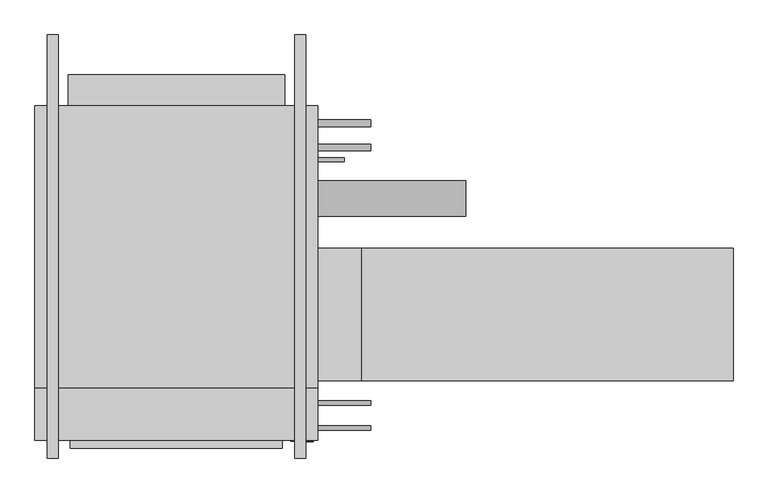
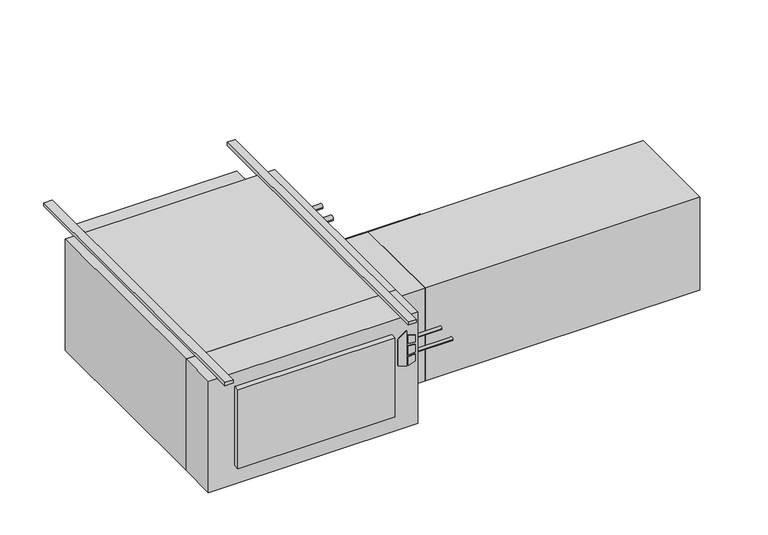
"""IFC4 building model written with IfcOpenShell, lengths in millimetres: proxy geometry."""

from ifc_helpers import new_model, si_unit, point, frame, frame_2d, origin, origin_with_axes, place, context, project, spatial, polyline, circle_curve, trimmed, segment, composite_curve, outline, extrude, source, transform, mapped, element, save


def mechanical_equipment_6838c852(model_context):
    return source(origin(), model_context, "Body", "SweptSolid", [
        extrude(outline(polyline([(-193.2519297, 481.0868862), (-203.2, 513.2602728), (-61.0290756, 513.2602728), (-84.0510817, 481.0868862), (-193.2519297, 481.0868862)])), frame((0.0, -797.052, 0.0), z_axis=(0.0, 1.0, 0.0), x_axis=(0.0, 0.0, 1.0)), (0.0, 0.0, 1.0), 3.175),
        extrude(outline(polyline([(-114.2526443, 520.0186058), (-117.4550368, 546.1), (-88.2261958, 546.1), (-80.1617807, 520.0186058), (-114.2526443, 520.0186058)])), frame((0.0, -797.052, 0.0), z_axis=(0.0, 1.0, 0.0), x_axis=(0.0, 0.0, 1.0)), (0.0, 0.0, 1.0), 3.175),
        extrude(outline(polyline([(-166.1161712, 546.1), (-169.7816721, 520.0186058), (-203.2, 520.0186058), (-194.5657628, 546.1), (-166.1161712, 546.1)])), frame((0.0, -797.052, 0.0), z_axis=(0.0, 1.0, 0.0), x_axis=(0.0, 0.0, 1.0)), (0.0, 0.0, 1.0), 3.175),
        extrude(outline(polyline([(-126.8010097, 546.1), (-124.5191834, 520.0186058), (-160.4567319, 520.0186058), (-157.7154669, 546.1), (-126.8010097, 546.1)])), frame((0.0, -797.052, 0.0), z_axis=(0.0, 1.0, 0.0), x_axis=(0.0, 0.0, 1.0)), (0.0, 0.0, 1.0), 3.175),
        extrude(outline(polyline([(558.8, -793.877), (-254.0, -793.877), (-254.0, -644.525), (558.8, -644.525), (558.8, -793.877)])), frame((0.0, 0.0, -457.2), z_axis=(0.0, 0.0, 1.0), x_axis=(1.0, 0.0, 0.0)), (0.0, 0.0, 1.0), 457.2),
        extrude(outline(polyline([(457.2, -816.229), (-152.4, -816.229), (-152.4, -793.877), (457.2, -793.877), (457.2, -816.229)])), frame((0.0, 0.0, -381.0), z_axis=(0.0, 0.0, 1.0), x_axis=(1.0, 0.0, 0.0)), (0.0, 0.0, 1.0), 323.85),
        extrude(outline(polyline([(1752.6, -241.3), (1752.6, -622.3), (685.8, -622.3), (685.8, -241.3), (1752.6, -241.3)])), frame((0.0, 0.0, -431.8), z_axis=(0.0, 0.0, 1.0), x_axis=(1.0, 0.0, 0.0)), (0.0, 0.0, 1.0), 381.0),
        extrude(outline(polyline([(685.8, -241.3), (685.8, -622.3), (558.8, -622.3), (558.8, -241.3), (685.8, -241.3)])), frame((0.0, 0.0, -431.8), z_axis=(0.0, 0.0, 1.0), x_axis=(1.0, 0.0, 0.0)), (0.0, 0.0, 1.0), 381.0),
        extrude(outline(composite_curve([segment(trimmed(circle_curve(frame_2d((-758.825, -184.15)), 6.35), [point((-752.475, -184.15))], [point((-765.175, -184.15))], False, "CARTESIAN"), True, "CONTINUOUS"), segment(trimmed(circle_curve(frame_2d((-758.825, -184.15)), 6.35), [point((-765.175, -184.15))], [point((-752.475, -184.15))], False, "CARTESIAN"), True, "CONTINUOUS")], self_intersect=False)), frame((558.8, 0.0, 0.0), z_axis=(1.0, 0.0, 0.0), x_axis=(0.0, 1.0, 0.0)), (0.0, 0.0, 1.0), 152.4),
        extrude(outline(composite_curve([segment(trimmed(circle_curve(frame_2d((-685.8, -184.15)), 6.35), [point((-679.45, -184.15))], [point((-692.15, -184.15))], False, "CARTESIAN"), True, "CONTINUOUS"), segment(trimmed(circle_curve(frame_2d((-685.8, -184.15)), 6.35), [point((-692.15, -184.15))], [point((-679.45, -184.15))], False, "CARTESIAN"), True, "CONTINUOUS")], self_intersect=False)), frame((558.8, 0.0, 0.0), z_axis=(1.0, 0.0, 0.0), x_axis=(0.0, 1.0, 0.0)), (0.0, 0.0, 1.0), 152.4),
        extrude(outline(composite_curve([segment(trimmed(circle_curve(frame_2d((117.475, -171.45)), 9.525), [point((127.0, -171.45))], [point((107.95, -171.45))], False, "CARTESIAN"), True, "CONTINUOUS"), segment(trimmed(circle_curve(frame_2d((117.475, -171.45)), 9.525), [point((107.95, -171.45))], [point((127.0, -171.45))], False, "CARTESIAN"), True, "CONTINUOUS")], self_intersect=False)), frame((558.8, 0.0, 0.0), z_axis=(1.0, 0.0, 0.0), x_axis=(0.0, 1.0, 0.0)), (0.0, 0.0, 1.0), 152.4),
        extrude(outline(composite_curve([segment(trimmed(circle_curve(frame_2d((47.625, -177.8)), 9.525), [point((57.15, -177.8))], [point((38.1, -177.8))], False, "CARTESIAN"), True, "CONTINUOUS"), segment(trimmed(circle_curve(frame_2d((47.625, -177.8)), 9.525), [point((38.1, -177.8))], [point((57.15, -177.8))], False, "CARTESIAN"), True, "CONTINUOUS")], self_intersect=False)), frame((558.8, 0.0, 0.0), z_axis=(1.0, 0.0, 0.0), x_axis=(0.0, 1.0, 0.0)), (0.0, 0.0, 1.0), 152.4),
        extrude(outline(composite_curve([segment(trimmed(circle_curve(frame_2d((-98.4896516, -228.6360165)), 50.8), [point((-47.6896516, -228.6360165))], [point((-149.2896516, -228.6360165))], False, "CARTESIAN"), True, "CONTINUOUS"), segment(trimmed(circle_curve(frame_2d((-98.4896516, -228.6360165)), 50.8), [point((-149.2896516, -228.6360165))], [point((-47.6896516, -228.6360165))], False, "CARTESIAN"), True, "CONTINUOUS")], self_intersect=False)), frame((558.8, 0.0, 0.0), z_axis=(1.0, 0.0, 0.0), x_axis=(0.0, 1.0, 0.0)), (0.0, 0.0, 1.0), 425.45),
        extrude(outline(composite_curve([segment(trimmed(circle_curve(frame_2d((12.7, -409.575)), 6.35), [point((19.05, -409.575))], [point((6.35, -409.575))], False, "CARTESIAN"), True, "CONTINUOUS"), segment(trimmed(circle_curve(frame_2d((12.7, -409.575)), 6.35), [point((6.35, -409.575))], [point((19.05, -409.575))], False, "CARTESIAN"), True, "CONTINUOUS")], self_intersect=False)), frame((558.8, 0.0, 0.0), z_axis=(1.0, 0.0, 0.0), x_axis=(0.0, 1.0, 0.0)), (0.0, 0.0, 1.0), 76.2),
        extrude(outline(polyline([(558.8, 168.275), (558.8, -644.525), (-254.0, -644.525), (-254.0, 168.275), (558.8, 168.275)])), frame((0.0, 0.0, -457.2), z_axis=(0.0, 0.0, 1.0), x_axis=(1.0, 0.0, 0.0)), (0.0, 0.0, 1.0), 457.2),
        extrude(outline(polyline([(-158.75, 257.175), (463.55, 257.175), (463.55, 168.275), (-158.75, 168.275), (-158.75, 257.175)])), frame((0.0, 0.0, -381.0), z_axis=(0.0, 0.0, 1.0), x_axis=(1.0, 0.0, 0.0)), (0.0, 0.0, 1.0), 355.6),
        extrude(outline(polyline([(-187.325, 371.475), (-187.325, -844.677), (-219.075, -844.677), (-219.075, 371.475), (-187.325, 371.475)])), origin_with_axes(), (0.0, 0.0, 1.0), 12.7),
        extrude(outline(polyline([(523.875, 371.475), (523.875, -844.677), (492.125, -844.677), (492.125, 371.475), (523.875, 371.475)])), origin_with_axes(), (0.0, 0.0, 1.0), 12.7),
    ])


if __name__ == "__main__":
    model = new_model("IFC4")
    model_context = context("Model", 3, world=origin())
    ifc_project = project(units=[si_unit("LENGTHUNIT", "METRE", prefix="MILLI")], contexts=[model_context])
    site = spatial("IfcSite", under=ifc_project)
    building = spatial("IfcBuilding", under=site)
    placement = place(None, origin())
    mechanical_equipment_shape = mechanical_equipment_6838c852(model_context)
    element("IfcBuildingElementProxy", 1, Name="High_Capacity_Horizontal_Cabinet_Fan_Coil_Unit_-_HTY_-_IEC_-_4-Pipe_WO-Attenuator_RH Side_2022 : Size 10 - 115v/60Hz/1Ph - 4/1 Coil - 4\" AirIn", ObjectType="High_Capacity_Horizontal_Cabinet_Fan_Coil_Unit_-_HTY_-_IEC_-_4-Pipe_WO-Attenuator_RH Side_2022 : Size 10 - 115v/60Hz/1Ph - 4/1 Coil - 4\" AirIn", at=placement, inside=building, context=model_context, shape_type="MappedRepresentation", body=[
        mapped(mechanical_equipment_shape, transform((0.0, 0.0, 0.0), x_axis=(1.0, 0.0, 0.0), y_axis=(0.0, 1.0, 0.0), z_axis=(0.0, 0.0, 1.0))),
    ])
    save(model, "model.ifc")
